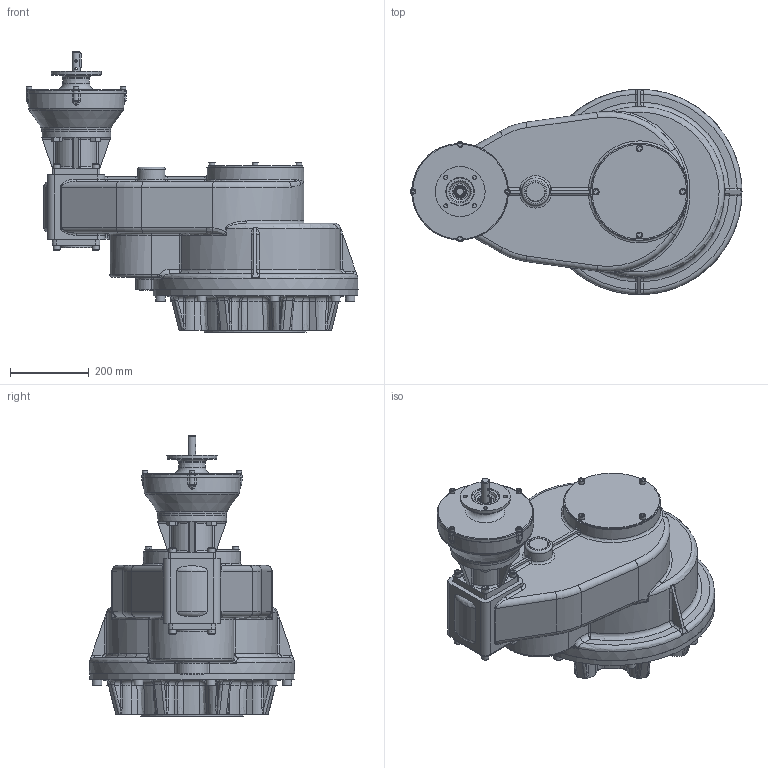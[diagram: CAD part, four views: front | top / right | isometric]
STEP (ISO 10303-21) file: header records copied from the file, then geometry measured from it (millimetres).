
FILE_DESCRIPTION( ( 'Unknown' ), '1' );
FILE_NAME( 'X:/CURRENT/PUB/Hos/HOS 2015/HOS-MPR/HOS-MPR-Models/PUB-HOS15MPR10-151.9-E-F35.stp', 'Unknown', ( 'Unknown' ), ( 'Unknown' ), 'PSStep 16.0.42', 'Unknown', ' ' );
FILE_SCHEMA( ( 'AUTOMOTIVE_DESIGN { 1 0 10303 214 1 1 1 1 }' ) );
Length unit declared in the file: millimetre
Products named in the file (46): 1; 2; 3; 4; 5; 6; 7; 8; 9; 10; 11; trelleborg_trea00200-n7mm_b5c67wtxxcj74kwnwb2box077_01; 12; 13; 14; 15; 16; 17; 18; 19; 20; 21; 22; 23; 24; 25; 26; 27; 28; 29; 30; 31; 32; 33; 34; 35; 36; 37; 38; 39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
Bounding box: 840.65 x 520 x 711.17 mm (x, y, z)
Surface area: 1741992.1 mm2 (no closed solid volume)
Topology: 0 solids, 996 shells, 996 faces, 4653 edges, 4470 vertices
Faces by surface type: plane 349, cylinder 218, bspline 186, cone 104, torus 95, sphere 44
Full cylindrical faces by diameter (mm): 6 x2, 10.5 x4, 13.27 x4, 16 x4, 18 x8, 20 x1, 24 x8, 26.5 x8, 50 x1, 60 x1, 70 x2, 80 x1, 160.05 x1, 175 x1, 240 x1, 246 x1, 259.93 x1, 279.93 x1, 520 x1
Entity records: 99671 total; most frequent: CARTESIAN_POINT 58436, DIRECTION 6685, VERTEX_POINT 4416, ORIENTED_EDGE 4408, EDGE_CURVE 4408, AXIS2_PLACEMENT_3D 2473, LINE 1739, VECTOR 1739
